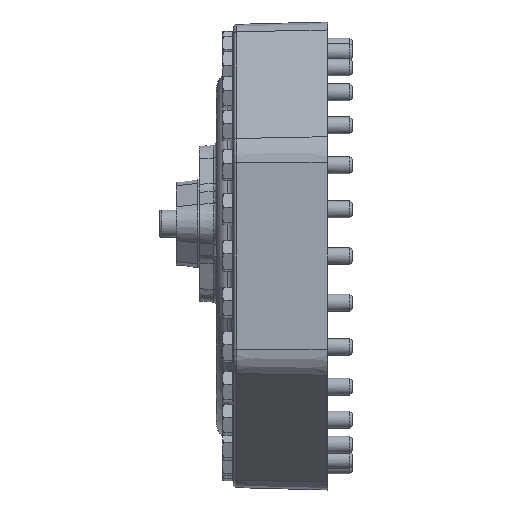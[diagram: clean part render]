
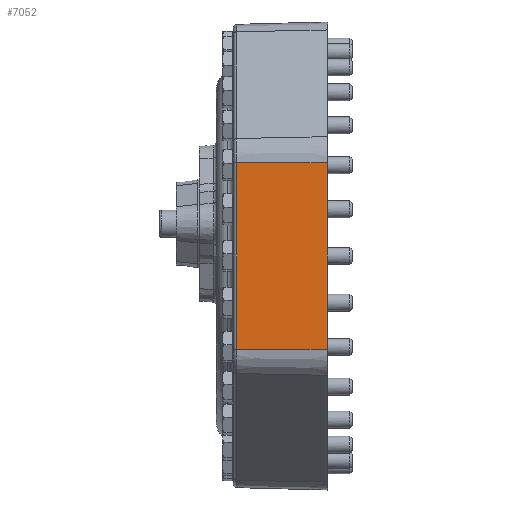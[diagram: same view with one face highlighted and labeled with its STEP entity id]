
A CAD part, left-side view. The second image highlights one B-rep face of the part: STEP entity #7052.
In plain terms, the highlighted planar face has unit normal (-1, 0.026, 0) as drawn and (-1, 0, -0.026) by its records, which use the part's own axes.
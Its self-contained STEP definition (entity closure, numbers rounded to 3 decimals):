
#5808=PLANE('',#16663);
#7052=ADVANCED_FACE('',(#7689),#5808,.T.);
#7689=FACE_OUTER_BOUND('',#8643,.T.);
#8643=EDGE_LOOP('',(#12255,#12256,#12257,#12258));
#9170=LINE('',#23607,#9666);
#9199=LINE('',#23711,#9695);
#9200=LINE('',#23716,#9696);
#9216=LINE('',#23757,#9712);
#9666=VECTOR('',#19436,1.);
#9695=VECTOR('',#19569,1.);
#9696=VECTOR('',#19574,1.);
#9712=VECTOR('',#19620,1.);
#12255=ORIENTED_EDGE('',*,*,#14816,.F.);
#12256=ORIENTED_EDGE('',*,*,#14793,.T.);
#12257=ORIENTED_EDGE('',*,*,#14741,.T.);
#12258=ORIENTED_EDGE('',*,*,#14795,.T.);
#13396=VERTEX_POINT('',#23594);
#13400=VERTEX_POINT('',#23606);
#13423=VERTEX_POINT('',#23709);
#13424=VERTEX_POINT('',#23714);
#14741=EDGE_CURVE('',#13396,#13400,#9170,.T.);
#14793=EDGE_CURVE('',#13423,#13396,#9199,.T.);
#14795=EDGE_CURVE('',#13400,#13424,#9200,.T.);
#14816=EDGE_CURVE('',#13423,#13424,#9216,.T.);
#16663=AXIS2_PLACEMENT_3D('',#23758,#19621,#19622);
#19436=DIRECTION('',(0.,-1.,0.));
#19569=DIRECTION('',(0.026,0.,-1.));
#19574=DIRECTION('',(-0.026,0.,1.));
#19620=DIRECTION('',(0.,-1.,0.));
#19621=DIRECTION('',(-1.,0.,-0.026));
#19622=DIRECTION('',(-0.026,0.,1.));
#23594=CARTESIAN_POINT('',(-136.111,54.791,1.948));
#23606=CARTESIAN_POINT('',(-136.111,-54.791,1.948));
#23607=CARTESIAN_POINT('',(-136.111,137.5,1.948));
#23709=CARTESIAN_POINT('',(-137.5,54.791,55.));
#23711=CARTESIAN_POINT('',(-137.5,54.791,55.));
#23714=CARTESIAN_POINT('',(-137.5,-54.791,55.));
#23716=CARTESIAN_POINT('',(-137.5,-54.791,55.));
#23757=CARTESIAN_POINT('',(-137.5,137.5,55.));
#23758=CARTESIAN_POINT('',(-137.5,137.5,55.));
